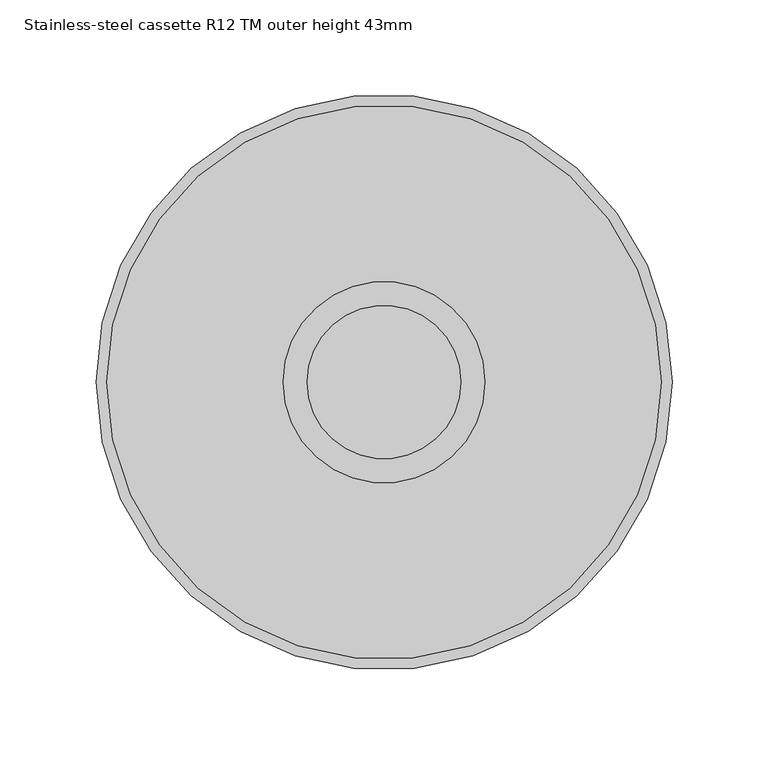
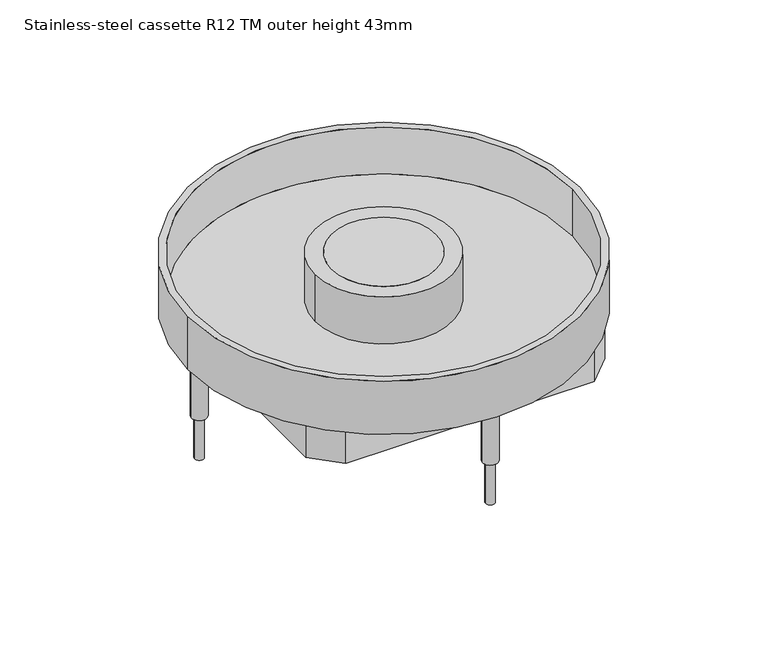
"""IFC4 building model written with IfcOpenShell, lengths in millimetres: proxy geometry, Electrical_Installation_Hager_VE-EE_EKR-Height-adjustable-stainless-steel-cassette-with-tube-mounting-set-round-for-damp-cleaned-floors : Stainless-steel cassette R12 TM outer height 43mm."""

from ifc_helpers import new_model, si_unit, point, frame, frame_2d, origin, origin_with_axes, origin_2d, place, context, project, spatial, polyline, circle_curve, trimmed, segment, composite_curve, outline, extrude, source, transform, mapped, element, save
from ifc_brep_helpers import plane_surface, cylinder_surface, revolved_surface, advanced_brep


def stainless_steel_cassette_r12_tm_outer_height_43mm_cc083f38(model_context):
    return source(origin(), model_context, "Body", "SolidModel", [
        extrude(outline(composite_curve([segment(trimmed(circle_curve(origin_2d(), 40.0), [point((-40.0, 0.0))], [point((40.0, 0.0))], False, "CARTESIAN"), True, "CONTINUOUS"), segment(trimmed(circle_curve(origin_2d(), 40.0), [point((40.0, 0.0))], [point((-40.0, 0.0))], False, "CARTESIAN"), True, "CONTINUOUS")], self_intersect=False)), origin_with_axes(), (0.0, 0.0, 1.0), 2.011943),
        advanced_brep(
        [(-52.5, 0.0, 2.011943), (52.5, 0.0, 2.011943), (-40.0, 0.0, 2.011943), (40.0, 0.0, 2.011943), (-52.5, 0.0, -35.988057), (52.5, 0.0, -35.988057), (-40.0, 0.0, -35.988057), (40.0, 0.0, -35.988057), (-52.5, 0.0, 0.0), (52.5, 0.0, 0.0), (-40.0, 0.0, 0.0), (40.0, 0.0, 0.0)],
        [
            (0, 1, circle_curve(frame((0.0, 0.0, 2.011943), z_axis=(0.0, 0.0, 1.0), x_axis=(1.0, 0.0, 0.0)), 52.5)),
            (1, 0, circle_curve(frame((0.0, 0.0, 2.011943), z_axis=(0.0, 0.0, 1.0), x_axis=(1.0, 0.0, 0.0)), 52.5)),
            (2, 3, circle_curve(frame((0.0, 0.0, 2.011943), z_axis=(0.0, 0.0, -1.0), x_axis=(1.0, 0.0, 0.0)), 40.0)),
            (3, 2, circle_curve(frame((0.0, 0.0, 2.011943), z_axis=(0.0, 0.0, -1.0), x_axis=(1.0, 0.0, 0.0)), 40.0)),
            (4, 5, circle_curve(frame((0.0, 0.0, -35.988057), z_axis=(0.0, 0.0, -1.0), x_axis=(1.0, 0.0, 0.0)), 52.5)),
            (5, 4, circle_curve(frame((0.0, 0.0, -35.988057), z_axis=(0.0, 0.0, -1.0), x_axis=(1.0, 0.0, 0.0)), 52.5)),
            (6, 7, circle_curve(frame((0.0, 0.0, -35.988057), z_axis=(0.0, 0.0, 1.0), x_axis=(1.0, 0.0, 0.0)), 40.0)),
            (7, 6, circle_curve(frame((0.0, 0.0, -35.988057), z_axis=(0.0, 0.0, 1.0), x_axis=(1.0, 0.0, 0.0)), 40.0)),
            (0, 8),
            (8, 4),
            (5, 9),
            (9, 1),
            (2, 10),
            (10, 6),
            (7, 11),
            (11, 3),
        ],
        [
            plane_surface(frame((52.5, 0.0, 2.011943), z_axis=(0.0, 0.0, 1.0), x_axis=(0.0, 1.0, 0.0))),
            plane_surface(frame((52.5, 0.0, -35.988057), z_axis=(0.0, 0.0, -1.0), x_axis=(0.0, -1.0, 0.0))),
            cylinder_surface(frame((0.0, 0.0, -35.988057), z_axis=(0.0, 0.0, 1.0), x_axis=(1.0, 0.0, 0.0)), 52.5),
            revolved_surface(polyline([(40.0, 0.0, -35.988057), (40.0, 0.0, 2.011943)]), (0.0, 0.0, 0.0), (0.0, 0.0, -1.0)),
        ],
        [
            (0, [[1, 2], [3, 4]]),
            (1, [[5, 6], [7, 8]]),
            (2, [[-1, 9, 10, -6, 11, 12]]),
            (2, [[-2, -12, -11, -5, -10, -9]]),
            (3, [[-3, 13, 14, -8, 15, 16]]),
            (3, [[-4, -16, -15, -7, -14, -13]]),
        ],
    ),
        extrude(outline(composite_curve([segment(trimmed(circle_curve(frame_2d((-141.3, 0.0)), 3.5), [point((-144.8, 0.0))], [point((-137.8, 0.0))], False, "CARTESIAN"), True, "CONTINUOUS"), segment(trimmed(circle_curve(frame_2d((-141.3, 0.0)), 3.5), [point((-137.8, 0.0))], [point((-144.8, 0.0))], False, "CARTESIAN"), True, "CONTINUOUS")], self_intersect=False)), frame((0.0, 0.0, -115.0), z_axis=(0.0, 0.0, 1.0), x_axis=(1.0, 0.0, 0.0)), (0.0, 0.0, 1.0), 74.011943),
        extrude(outline(composite_curve([segment(trimmed(circle_curve(frame_2d((0.0, 141.3)), 3.5), [point((-3.5, 141.3))], [point((3.5, 141.3))], False, "CARTESIAN"), True, "CONTINUOUS"), segment(trimmed(circle_curve(frame_2d((0.0, 141.3)), 3.5), [point((3.5, 141.3))], [point((-3.5, 141.3))], False, "CARTESIAN"), True, "CONTINUOUS")], self_intersect=False)), frame((0.0, 0.0, -115.0), z_axis=(0.0, 0.0, 1.0), x_axis=(1.0, 0.0, 0.0)), (0.0, 0.0, 1.0), 74.011943),
        extrude(outline(composite_curve([segment(trimmed(circle_curve(frame_2d((141.3, 0.0)), 3.548869), [point((137.751131, 0.0))], [point((144.848869, 0.0))], False, "CARTESIAN"), True, "CONTINUOUS"), segment(trimmed(circle_curve(frame_2d((141.3, 0.0)), 3.548869), [point((144.848869, 0.0))], [point((137.751131, 0.0))], False, "CARTESIAN"), True, "CONTINUOUS")], self_intersect=False)), frame((0.0, 0.0, -115.0), z_axis=(0.0, 0.0, 1.0), x_axis=(1.0, 0.0, 0.0)), (0.0, 0.0, 1.0), 74.011943),
        extrude(outline(composite_curve([segment(trimmed(circle_curve(frame_2d((0.0, -141.3)), 3.5), [point((-3.5, -141.3))], [point((3.5, -141.3))], False, "CARTESIAN"), True, "CONTINUOUS"), segment(trimmed(circle_curve(frame_2d((0.0, -141.3)), 3.5), [point((3.5, -141.3))], [point((-3.5, -141.3))], False, "CARTESIAN"), True, "CONTINUOUS")], self_intersect=False)), frame((0.0, 0.0, -115.0), z_axis=(0.0, 0.0, 1.0), x_axis=(1.0, 0.0, 0.0)), (0.0, 0.0, 1.0), 74.011943),
        advanced_brep(
        [(144.5, 0.0, -35.988057), (-144.5, 0.0, -35.988057), (-40.0, 0.0, -35.988057), (40.0, 0.0, -35.988057), (-150.0, 0.0, -40.988057), (150.0, 0.0, -40.988057), (-40.0, 0.0, -40.988057), (40.0, 0.0, -40.988057), (-150.0, 0.0, 2.011943), (150.0, 0.0, 2.011943), (-144.5, 0.0, 2.011943), (144.5, 0.0, 2.011943)],
        [
            (0, 1, circle_curve(frame((0.0, 0.0, -35.988057), z_axis=(0.0, 0.0, 1.0), x_axis=(1.0, 0.0, 0.0)), 144.5)),
            (1, 0, circle_curve(frame((0.0, 0.0, -35.988057), z_axis=(0.0, 0.0, 1.0), x_axis=(1.0, 0.0, 0.0)), 144.5)),
            (2, 3, circle_curve(frame((0.0, 0.0, -35.988057), z_axis=(0.0, 0.0, -1.0), x_axis=(1.0, 0.0, 0.0)), 40.0)),
            (3, 2, circle_curve(frame((0.0, 0.0, -35.988057), z_axis=(0.0, 0.0, -1.0), x_axis=(1.0, 0.0, 0.0)), 40.0)),
            (4, 5, circle_curve(frame((0.0, 0.0, -40.988057), z_axis=(0.0, 0.0, -1.0), x_axis=(1.0, 0.0, 0.0)), 150.0)),
            (5, 4, circle_curve(frame((0.0, 0.0, -40.988057), z_axis=(0.0, 0.0, -1.0), x_axis=(1.0, 0.0, 0.0)), 150.0)),
            (6, 7, circle_curve(frame((0.0, 0.0, -40.988057), z_axis=(0.0, 0.0, 1.0), x_axis=(1.0, 0.0, 0.0)), 40.0)),
            (7, 6, circle_curve(frame((0.0, 0.0, -40.988057), z_axis=(0.0, 0.0, 1.0), x_axis=(1.0, 0.0, 0.0)), 40.0)),
            (8, 9, circle_curve(frame((0.0, 0.0, 2.011943), z_axis=(0.0, 0.0, 1.0), x_axis=(1.0, 0.0, 0.0)), 150.0)),
            (9, 8, circle_curve(frame((0.0, 0.0, 2.011943), z_axis=(0.0, 0.0, 1.0), x_axis=(1.0, 0.0, 0.0)), 150.0)),
            (10, 11, circle_curve(frame((0.0, 0.0, 2.011943), z_axis=(0.0, 0.0, -1.0), x_axis=(1.0, 0.0, 0.0)), 144.5)),
            (11, 10, circle_curve(frame((0.0, 0.0, 2.011943), z_axis=(0.0, 0.0, -1.0), x_axis=(1.0, 0.0, 0.0)), 144.5)),
            (8, 4),
            (5, 9),
            (10, 1),
            (0, 11),
            (2, 6),
            (7, 3),
        ],
        [
            plane_surface(frame((144.5, 0.0, -35.988057), z_axis=(0.0, 0.0, 1.0), x_axis=(0.0, 1.0, 0.0))),
            plane_surface(frame((144.5, 0.0, -40.988057), z_axis=(0.0, 0.0, -1.0), x_axis=(0.0, -1.0, 0.0))),
            plane_surface(frame((150.0, 0.0, 2.011943), z_axis=(0.0, 0.0, 1.0), x_axis=(0.0, 1.0, 0.0))),
            cylinder_surface(frame((0.0, 0.0, -40.988057), z_axis=(0.0, 0.0, 1.0), x_axis=(1.0, 0.0, 0.0)), 150.0),
            revolved_surface(polyline([(144.5, 0.0, -35.988057), (144.5, 0.0, 2.011943)]), (0.0, 0.0, 0.0), (0.0, 0.0, -1.0)),
            revolved_surface(polyline([(40.0, 0.0, -40.988057), (40.0, 0.0, -35.988057)]), (0.0, 0.0, 0.0), (0.0, 0.0, -1.0)),
        ],
        [
            (0, [[1, 2], [3, 4]]),
            (1, [[5, 6], [7, 8]]),
            (2, [[9, 10], [11, 12]]),
            (3, [[-9, 13, -6, 14]]),
            (3, [[-10, -14, -5, -13]]),
            (4, [[-11, 15, -1, 16]]),
            (4, [[-12, -16, -2, -15]]),
            (5, [[-3, 17, -8, 18]]),
            (5, [[-4, -18, -7, -17]]),
        ],
    ),
        extrude(outline(polyline([(94.9818914, 114.5), (114.5, 94.9818914), (114.5, -94.9818914), (94.9818914, -114.5), (-94.9818914, -114.5), (-114.5, -94.9818914), (-114.5, 94.9818914), (-94.9818914, 114.5), (94.9818914, 114.5)]), holes=[polyline([(-111.5, 93.8602374), (-111.5, -93.8602374), (-93.8602374, -111.5), (93.8602374, -111.5), (111.5, -93.8602374), (111.5, 93.8602374), (93.8602374, 111.5), (-93.8602374, 111.5), (-111.5, 93.8602374)])]), frame((0.0, 0.0, -66.9261016), z_axis=(0.0, 0.0, 1.0), x_axis=(1.0, 0.0, 0.0)), (0.0, 0.0, 1.0), 25.9380446),
        extrude(outline(composite_curve([segment(trimmed(circle_curve(frame_2d((0.0, 141.3)), 5.9738904), [point((-5.9738904, 141.3))], [point((5.9738904, 141.3))], False, "CARTESIAN"), True, "CONTINUOUS"), segment(trimmed(circle_curve(frame_2d((0.0, 141.3)), 5.9738904), [point((5.9738904, 141.3))], [point((-5.9738904, 141.3))], False, "CARTESIAN"), True, "CONTINUOUS")], self_intersect=False)), frame((0.0, 0.0, -81.0371838), z_axis=(0.0, 0.0, 1.0), x_axis=(1.0, 0.0, 0.0)), (0.0, 0.0, 1.0), 40.0491267),
        extrude(outline(composite_curve([segment(trimmed(circle_curve(frame_2d((141.3, 0.0)), 6.0), [point((135.3, 0.0))], [point((147.3, 0.0))], False, "CARTESIAN"), True, "CONTINUOUS"), segment(trimmed(circle_curve(frame_2d((141.3, 0.0)), 6.0), [point((147.3, 0.0))], [point((135.3, 0.0))], False, "CARTESIAN"), True, "CONTINUOUS")], self_intersect=False)), frame((0.0, 0.0, -81.0371838), z_axis=(0.0, 0.0, 1.0), x_axis=(1.0, 0.0, 0.0)), (0.0, 0.0, 1.0), 40.0491267),
        extrude(outline(composite_curve([segment(trimmed(circle_curve(frame_2d((0.0, -141.3)), 6.0), [point((-6.0, -141.3))], [point((6.0, -141.3))], False, "CARTESIAN"), True, "CONTINUOUS"), segment(trimmed(circle_curve(frame_2d((0.0, -141.3)), 6.0), [point((6.0, -141.3))], [point((-6.0, -141.3))], False, "CARTESIAN"), True, "CONTINUOUS")], self_intersect=False)), frame((0.0, 0.0, -81.0371838), z_axis=(0.0, 0.0, 1.0), x_axis=(1.0, 0.0, 0.0)), (0.0, 0.0, 1.0), 40.0491267),
        extrude(outline(composite_curve([segment(trimmed(circle_curve(frame_2d((-141.3, 0.0)), 6.0), [point((-147.3, 0.0))], [point((-135.3, 0.0))], False, "CARTESIAN"), True, "CONTINUOUS"), segment(trimmed(circle_curve(frame_2d((-141.3, 0.0)), 6.0), [point((-135.3, 0.0))], [point((-147.3, 0.0))], False, "CARTESIAN"), True, "CONTINUOUS")], self_intersect=False)), frame((0.0, 0.0, -81.0371838), z_axis=(0.0, 0.0, 1.0), x_axis=(1.0, 0.0, 0.0)), (0.0, 0.0, 1.0), 40.0491267),
    ])


if __name__ == "__main__":
    model = new_model("IFC4")
    model_context = context("Model", 3, world=origin())
    ifc_project = project(units=[si_unit("LENGTHUNIT", "METRE", prefix="MILLI")], contexts=[model_context])
    site = spatial("IfcSite", under=ifc_project)
    building = spatial("IfcBuilding", under=site)
    placement = place(None, origin())
    stainless_steel_cassette_r12_tm_outer_height_43mm_shape = stainless_steel_cassette_r12_tm_outer_height_43mm_cc083f38(model_context)
    element("IfcBuildingElementProxy", 1, Name="Electrical_Installation_Hager_VE-EE_EKR-Height-adjustable-stainless-steel-cassette-with-tube-mounting-set-round-for-damp-cleaned-floors : Stainless-steel cassette R12 TM outer height 43mm", ObjectType="Electrical_Installation_Hager_VE-EE_EKR-Height-adjustable-stainless-steel-cassette-with-tube-mounting-set-round-for-damp-cleaned-floors : Stainless-steel cassette R12 TM outer height 43mm", at=placement, inside=building, context=model_context, shape_type="MappedRepresentation", body=[
        mapped(stainless_steel_cassette_r12_tm_outer_height_43mm_shape, transform((0.0, 0.0, 0.0), x_axis=(1.0, 0.0, 0.0), y_axis=(0.0, 1.0, 0.0), z_axis=(0.0, 0.0, 1.0))),
    ])
    save(model, "model.ifc")
